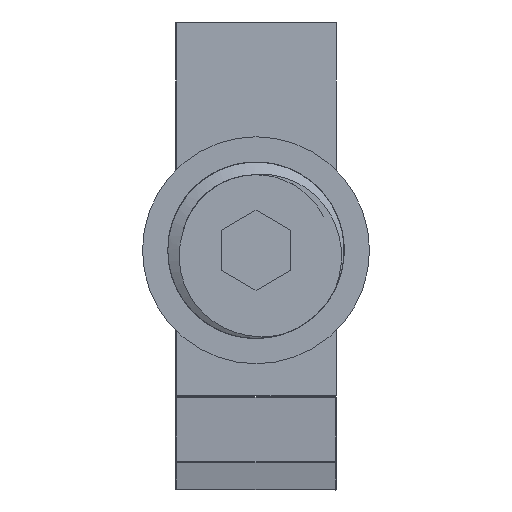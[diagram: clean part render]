
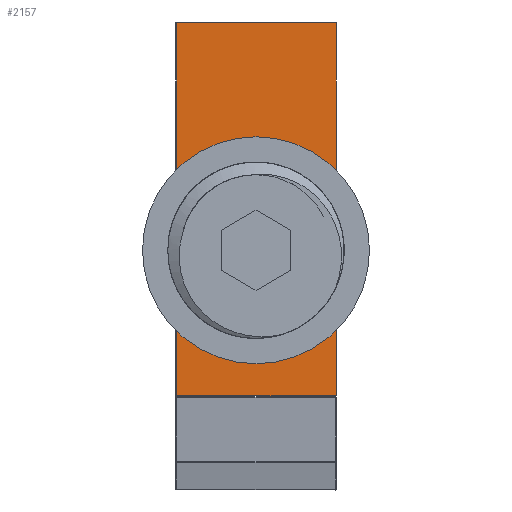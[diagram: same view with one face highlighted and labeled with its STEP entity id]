
A CAD part, front view. The second image highlights one B-rep face of the part: STEP entity #2157.
In plain terms, the highlighted planar face has unit normal (0, -1, 0).
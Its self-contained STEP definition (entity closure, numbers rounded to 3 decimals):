
#149=PLANE('',#2416);
#272=FACE_OUTER_BOUND('',#455,.T.);
#455=EDGE_LOOP('',(#1822,#1823,#1824,#1825));
#555=LINE('',#4576,#700);
#558=LINE('',#4589,#703);
#575=LINE('',#4640,#720);
#576=LINE('',#4642,#721);
#700=VECTOR('',#2688,10.);
#703=VECTOR('',#2703,10.);
#720=VECTOR('',#2764,10.);
#721=VECTOR('',#2767,10.);
#979=VERTEX_POINT('',#4564);
#982=VERTEX_POINT('',#4571);
#986=VERTEX_POINT('',#4588);
#997=VERTEX_POINT('',#4624);
#1196=EDGE_CURVE('',#979,#982,#555,.T.);
#1202=EDGE_CURVE('',#986,#979,#558,.T.);
#1230=EDGE_CURVE('',#982,#997,#575,.T.);
#1231=EDGE_CURVE('',#997,#986,#576,.T.);
#1822=ORIENTED_EDGE('',*,*,#1202,.F.);
#1823=ORIENTED_EDGE('',*,*,#1231,.F.);
#1824=ORIENTED_EDGE('',*,*,#1230,.F.);
#1825=ORIENTED_EDGE('',*,*,#1196,.F.);
#2157=ADVANCED_FACE('',(#272),#149,.F.);
#2416=AXIS2_PLACEMENT_3D('',#4829,#3010,#3011);
#2688=DIRECTION('',(0.,0.,1.));
#2703=DIRECTION('',(-1.,0.,0.));
#2764=DIRECTION('',(1.,0.,0.));
#2767=DIRECTION('',(0.,0.,-1.));
#3010=DIRECTION('center_axis',(0.,1.,0.));
#3011=DIRECTION('ref_axis',(-1.,0.,0.));
#4564=CARTESIAN_POINT('',(-8.9,83.,-16.3));
#4571=CARTESIAN_POINT('',(-8.9,83.,25.5));
#4576=CARTESIAN_POINT('',(-8.9,83.,-5.9));
#4588=CARTESIAN_POINT('',(9.,83.,-16.3));
#4589=CARTESIAN_POINT('',(4.5,83.,-16.3));
#4624=CARTESIAN_POINT('',(9.,83.,25.5));
#4640=CARTESIAN_POINT('',(-4.5,83.,25.5));
#4642=CARTESIAN_POINT('',(9.,83.,25.6));
#4829=CARTESIAN_POINT('Origin',(0.,83.,4.6));
